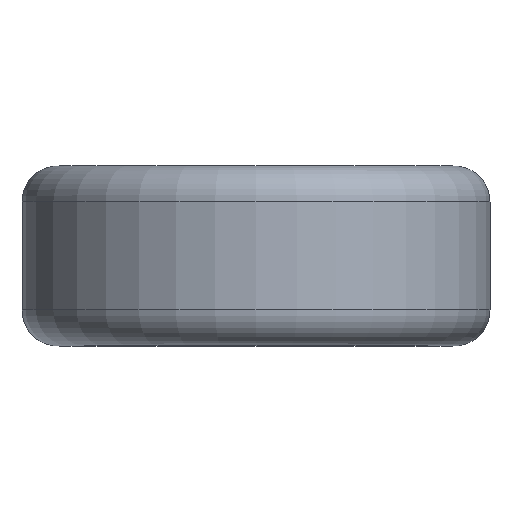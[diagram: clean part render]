
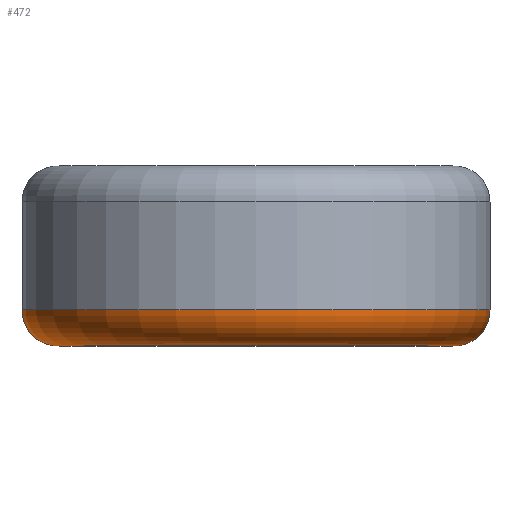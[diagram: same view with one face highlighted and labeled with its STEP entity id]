
A CAD part, top view. The second image highlights one B-rep face of the part: STEP entity #472.
In plain terms, the highlighted toroidal (fillet/blend) face has major radius 5.5 mm and minor radius 1 mm.
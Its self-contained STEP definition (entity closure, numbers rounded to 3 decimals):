
#81=FACE_OUTER_BOUND('',#112,.T.);
#112=EDGE_LOOP('',(#400,#401,#402,#403,#404,#405,#406));
#138=CIRCLE('',#528,6.5);
#139=CIRCLE('',#529,6.5);
#140=CIRCLE('',#530,6.5);
#147=CIRCLE('',#539,5.5);
#148=CIRCLE('',#540,1.);
#149=CIRCLE('',#541,5.5);
#209=VERTEX_POINT('',#1523);
#210=VERTEX_POINT('',#1524);
#211=VERTEX_POINT('',#1526);
#224=VERTEX_POINT('',#2397);
#225=VERTEX_POINT('',#2398);
#267=EDGE_CURVE('',#209,#210,#138,.T.);
#268=EDGE_CURVE('',#211,#209,#139,.T.);
#269=EDGE_CURVE('',#210,#211,#140,.T.);
#287=EDGE_CURVE('',#224,#225,#147,.T.);
#288=EDGE_CURVE('',#225,#211,#148,.T.);
#289=EDGE_CURVE('',#225,#224,#149,.T.);
#400=ORIENTED_EDGE('',*,*,#287,.T.);
#401=ORIENTED_EDGE('',*,*,#288,.T.);
#402=ORIENTED_EDGE('',*,*,#268,.T.);
#403=ORIENTED_EDGE('',*,*,#267,.T.);
#404=ORIENTED_EDGE('',*,*,#269,.T.);
#405=ORIENTED_EDGE('',*,*,#288,.F.);
#406=ORIENTED_EDGE('',*,*,#289,.T.);
#452=TOROIDAL_SURFACE('',#538,5.5,1.);
#472=ADVANCED_FACE('',(#81),#452,.T.);
#528=AXIS2_PLACEMENT_3D('',#1525,#622,#623);
#529=AXIS2_PLACEMENT_3D('',#1527,#624,#625);
#530=AXIS2_PLACEMENT_3D('',#1528,#626,#627);
#538=AXIS2_PLACEMENT_3D('',#2396,#643,#644);
#539=AXIS2_PLACEMENT_3D('',#2399,#645,#646);
#540=AXIS2_PLACEMENT_3D('',#2400,#647,#648);
#541=AXIS2_PLACEMENT_3D('',#2401,#649,#650);
#622=DIRECTION('center_axis',(0.,-1.,0.));
#623=DIRECTION('ref_axis',(-1.,0.,0.));
#624=DIRECTION('center_axis',(0.,-1.,0.));
#625=DIRECTION('ref_axis',(-1.,0.,0.));
#626=DIRECTION('center_axis',(0.,-1.,0.));
#627=DIRECTION('ref_axis',(-1.,0.,0.));
#643=DIRECTION('center_axis',(0.,-1.,0.));
#644=DIRECTION('ref_axis',(0.,0.,1.));
#645=DIRECTION('center_axis',(0.,1.,0.));
#646=DIRECTION('ref_axis',(-1.,0.,0.));
#647=DIRECTION('center_axis',(1.,0.,0.));
#648=DIRECTION('ref_axis',(0.,0.,-1.));
#649=DIRECTION('center_axis',(0.,1.,0.));
#650=DIRECTION('ref_axis',(-1.,0.,0.));
#1523=CARTESIAN_POINT('',(6.5,-1.5,0.));
#1524=CARTESIAN_POINT('',(-6.5,-1.5,0.));
#1525=CARTESIAN_POINT('Origin',(0.,-1.5,0.));
#1526=CARTESIAN_POINT('',(0.,-1.5,-6.5));
#1527=CARTESIAN_POINT('Origin',(0.,-1.5,0.));
#1528=CARTESIAN_POINT('Origin',(0.,-1.5,0.));
#2396=CARTESIAN_POINT('Origin',(0.,-1.5,0.));
#2397=CARTESIAN_POINT('',(5.5,-2.5,0.));
#2398=CARTESIAN_POINT('',(0.,-2.5,-5.5));
#2399=CARTESIAN_POINT('Origin',(0.,-2.5,0.));
#2400=CARTESIAN_POINT('Origin',(0.,-1.5,-5.5));
#2401=CARTESIAN_POINT('Origin',(0.,-2.5,0.));
